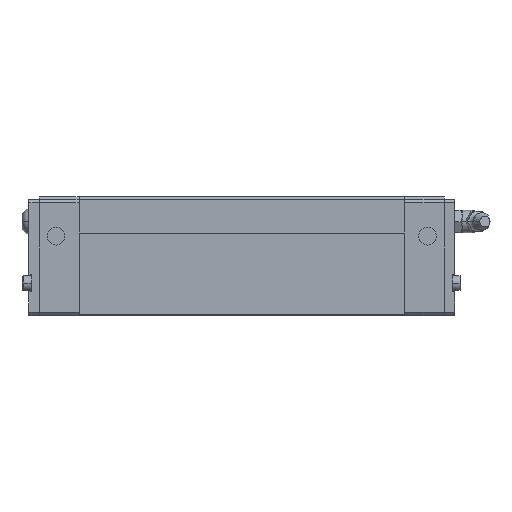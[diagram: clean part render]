
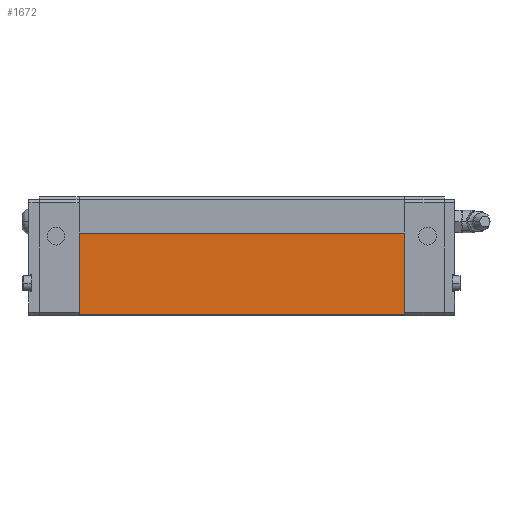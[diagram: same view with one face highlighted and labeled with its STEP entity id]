
A CAD part, left-side view. The second image highlights one B-rep face of the part: STEP entity #1672.
In plain terms, the highlighted planar face has unit normal (-1, 0, 0).
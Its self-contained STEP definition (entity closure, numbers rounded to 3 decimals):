
#1672=ADVANCED_FACE('',(#4745),#4746,.T.);
#1866=EDGE_CURVE('',#3172,#2576,#4954,.T.);
#2576=VERTEX_POINT('',#5743);
#2650=EDGE_CURVE('',#2756,#3520,#5823,.T.);
#2756=VERTEX_POINT('',#5941);
#3172=VERTEX_POINT('',#6404);
#3520=VERTEX_POINT('',#6797);
#4046=EDGE_CURVE('',#3520,#2576,#7371,.T.);
#4560=EDGE_CURVE('',#3172,#2756,#7932,.T.);
#4745=FACE_OUTER_BOUND('',#8175,.T.);
#4746=PLANE('',#8176);
#4954=LINE('',#8501,#8502);
#5743=CARTESIAN_POINT('',(-49.125,179.8,52.5));
#5823=LINE('',#9822,#9823);
#5941=CARTESIAN_POINT('',(-49.125,24.0,13.625));
#6404=CARTESIAN_POINT('',(-49.125,24.0,52.5));
#6797=CARTESIAN_POINT('',(-49.125,179.8,13.625));
#7371=LINE('',#12114,#12115);
#7932=LINE('',#13010,#13011);
#8175=EDGE_LOOP('',(#13235,#13236,#13237,#13238));
#8176=AXIS2_PLACEMENT_3D('',#13239,#13240,#13241);
#8501=CARTESIAN_POINT('',(-49.125,101.9,52.5));
#8502=VECTOR('',#13449,1.0);
#9822=CARTESIAN_POINT('',(-49.125,140.85,13.625));
#9823=VECTOR('',#14420,1.0);
#12114=CARTESIAN_POINT('',(-49.125,179.8,29.5));
#12115=VECTOR('',#16153,1.0);
#13010=CARTESIAN_POINT('',(-49.125,24.0,29.5));
#13011=VECTOR('',#16774,1.0);
#13235=ORIENTED_EDGE('',*,*,#4046,.F.);
#13236=ORIENTED_EDGE('',*,*,#2650,.F.);
#13237=ORIENTED_EDGE('',*,*,#4560,.F.);
#13238=ORIENTED_EDGE('',*,*,#1866,.T.);
#13239=CARTESIAN_POINT('',(-49.125,101.9,17.5));
#13240=DIRECTION('',(-1.0,0.0,0.0));
#13241=DIRECTION('',(0.0,0.0,1.0));
#13449=DIRECTION('',(0.0,1.0,0.0));
#14420=DIRECTION('',(0.0,1.0,-0.0));
#16153=DIRECTION('',(0.0,0.0,1.0));
#16774=DIRECTION('',(-0.0,-0.0,-1.0));
